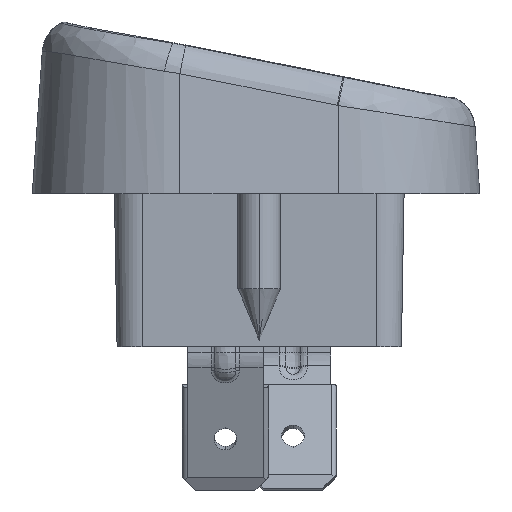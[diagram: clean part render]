
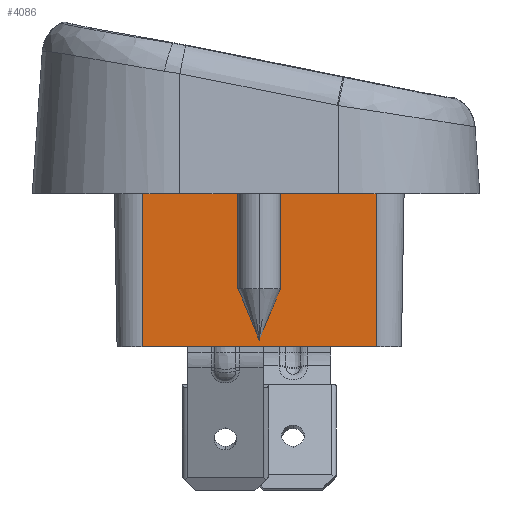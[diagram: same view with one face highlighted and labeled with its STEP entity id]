
A CAD part, front view. The second image highlights one B-rep face of the part: STEP entity #4086.
In plain terms, the highlighted planar face has unit normal (0, -1, -0.018).
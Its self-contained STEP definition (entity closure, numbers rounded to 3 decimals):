
#4063=AXIS2_PLACEMENT_3D('Plane Axis2P3D',#4060,#4061,#4062) ;
#2243=CARTESIAN_POINT('Vertex',(8.531,-26.181,-3.626)) ;
#2246=CARTESIAN_POINT('Line Origine',(0.,-26.181,-3.626)) ;
#2250=CARTESIAN_POINT('Vertex',(-8.531,-26.181,-3.626)) ;
#4040=CARTESIAN_POINT('Control Point',(-8.519,-26.401,9.)) ;
#4041=CARTESIAN_POINT('Control Point',(-8.531,-26.181,-3.626)) ;
#4042=CARTESIAN_POINT('Vertex',(-8.519,-26.401,9.)) ;
#4060=CARTESIAN_POINT('Axis2P3D Location',(-8.519,-26.401,9.)) ;
#4066=CARTESIAN_POINT('Control Point',(8.519,-26.401,9.)) ;
#4067=CARTESIAN_POINT('Control Point',(8.522,-26.357,6.475)) ;
#4068=CARTESIAN_POINT('Control Point',(8.524,-26.313,3.95)) ;
#4069=CARTESIAN_POINT('Control Point',(8.526,-26.269,1.424)) ;
#4070=CARTESIAN_POINT('Control Point',(8.529,-26.225,-1.101)) ;
#4071=CARTESIAN_POINT('Control Point',(8.531,-26.181,-3.626)) ;
#4072=CARTESIAN_POINT('Vertex',(8.519,-26.401,9.)) ;
#4075=CARTESIAN_POINT('Line Origine',(0.,-26.401,9.)) ;
#2247=DIRECTION('Vector Direction',(1.,0.,0.)) ;
#4061=DIRECTION('Axis2P3D Direction',(0.,1.,0.017)) ;
#4062=DIRECTION('Axis2P3D XDirection',(1.,0.,0.)) ;
#4076=DIRECTION('Vector Direction',(-1.,0.,0.)) ;
#2248=VECTOR('Line Direction',#2247,1.) ;
#4077=VECTOR('Line Direction',#4076,1.) ;
#4081=ORIENTED_EDGE('',*,*,#4044,.T.) ;
#4082=ORIENTED_EDGE('',*,*,#2252,.T.) ;
#4083=ORIENTED_EDGE('',*,*,#4074,.F.) ;
#4084=ORIENTED_EDGE('',*,*,#4079,.T.) ;
#4086=ADVANCED_FACE('Body',(#4085),#4064,.F.) ;
#4039=B_SPLINE_CURVE_WITH_KNOTS('',1,(#4040,#4041),.UNSPECIFIED.,.F.,.U.,(2,2),(0.,12.642),.UNSPECIFIED.) ;
#4065=B_SPLINE_CURVE_WITH_KNOTS('',5,(#4066,#4067,#4068,#4069,#4070,#4071),.UNSPECIFIED.,.F.,.U.,(6,6),(0.,12.628),.UNSPECIFIED.) ;
#2252=EDGE_CURVE('',#2251,#2244,#2249,.T.) ;
#4044=EDGE_CURVE('',#4043,#2251,#4039,.T.) ;
#4074=EDGE_CURVE('',#4073,#2244,#4065,.T.) ;
#4079=EDGE_CURVE('',#4073,#4043,#4078,.T.) ;
#4080=EDGE_LOOP('',(#4081,#4082,#4083,#4084)) ;
#4085=FACE_OUTER_BOUND('',#4080,.T.) ;
#2249=LINE('Line',#2246,#2248) ;
#4078=LINE('Line',#4075,#4077) ;
#4064=PLANE('',#4063) ;
#2244=VERTEX_POINT('',#2243) ;
#2251=VERTEX_POINT('',#2250) ;
#4043=VERTEX_POINT('',#4042) ;
#4073=VERTEX_POINT('',#4072) ;
